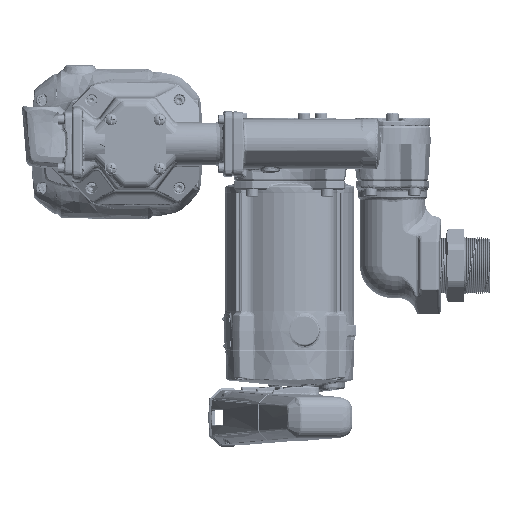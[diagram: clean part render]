
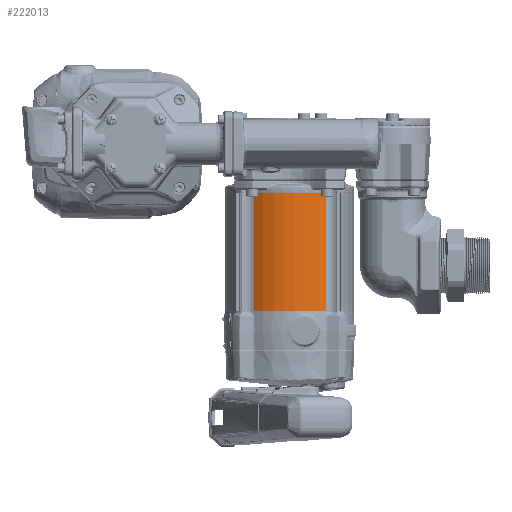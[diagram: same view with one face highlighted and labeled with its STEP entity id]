
A CAD part, left-side view. The second image highlights one B-rep face of the part: STEP entity #222013.
In plain terms, the highlighted cylindrical face has radius 67.691 mm (diameter 135.382 mm), a partial arc.
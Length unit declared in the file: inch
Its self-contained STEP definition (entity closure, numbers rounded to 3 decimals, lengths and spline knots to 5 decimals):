
#12183=CYLINDRICAL_SURFACE('',#240197,2.665);
#21818=FACE_OUTER_BOUND('',#35338,.T.);
#35338=EDGE_LOOP('',(#170767,#170768,#170769,#170770));
#48404=CIRCLE('',#240113,2.665);
#48458=CIRCLE('',#240175,2.665);
#70016=LINE('',#432858,#78456);
#70017=LINE('',#432860,#78457);
#78456=VECTOR('',#277312,0.3937);
#78457=VECTOR('',#277315,0.3937);
#92546=VERTEX_POINT('',#432709);
#92547=VERTEX_POINT('',#432711);
#92592=VERTEX_POINT('',#432817);
#92593=VERTEX_POINT('',#432819);
#119856=EDGE_CURVE('',#92547,#92546,#48404,.T.);
#119910=EDGE_CURVE('',#92593,#92592,#48458,.T.);
#119930=EDGE_CURVE('',#92593,#92546,#70016,.T.);
#119931=EDGE_CURVE('',#92592,#92547,#70017,.T.);
#170767=ORIENTED_EDGE('',*,*,#119910,.T.);
#170768=ORIENTED_EDGE('',*,*,#119931,.T.);
#170769=ORIENTED_EDGE('',*,*,#119856,.T.);
#170770=ORIENTED_EDGE('',*,*,#119930,.F.);
#222013=ADVANCED_FACE('',(#21818),#12183,.T.);
#240113=AXIS2_PLACEMENT_3D('',#432712,#277141,#277142);
#240175=AXIS2_PLACEMENT_3D('',#432820,#277265,#277266);
#240197=AXIS2_PLACEMENT_3D('',#432859,#277313,#277314);
#277141=DIRECTION('center_axis',(0.,0.,
1.));
#277142=DIRECTION('ref_axis',(0.,1.,0.));
#277265=DIRECTION('center_axis',(0.,0.,
-1.));
#277266=DIRECTION('ref_axis',(0.,1.,0.));
#277312=DIRECTION('',(0.,0.,-1.));
#277313=DIRECTION('center_axis',(0.,0.,
-1.));
#277314=DIRECTION('ref_axis',(0.,1.,0.));
#277315=DIRECTION('',(0.,0.,-1.));
#432709=CARTESIAN_POINT('',(-2.21431,-1.48293,-6.9035));
#432711=CARTESIAN_POINT('',(-2.21431,1.48293,-6.9035));
#432712=CARTESIAN_POINT('Origin',(0.,0.,
-6.9035));
#432817=CARTESIAN_POINT('',(-2.21431,1.48293,-2.0285));
#432819=CARTESIAN_POINT('',(-2.21431,-1.48293,-2.0285));
#432820=CARTESIAN_POINT('Origin',(0.,0.,
-2.0285));
#432858=CARTESIAN_POINT('',(-2.21431,-1.48293,-2.0285));
#432859=CARTESIAN_POINT('Origin',(0.,0.,
-2.0285));
#432860=CARTESIAN_POINT('',(-2.21431,1.48293,-2.0285));
